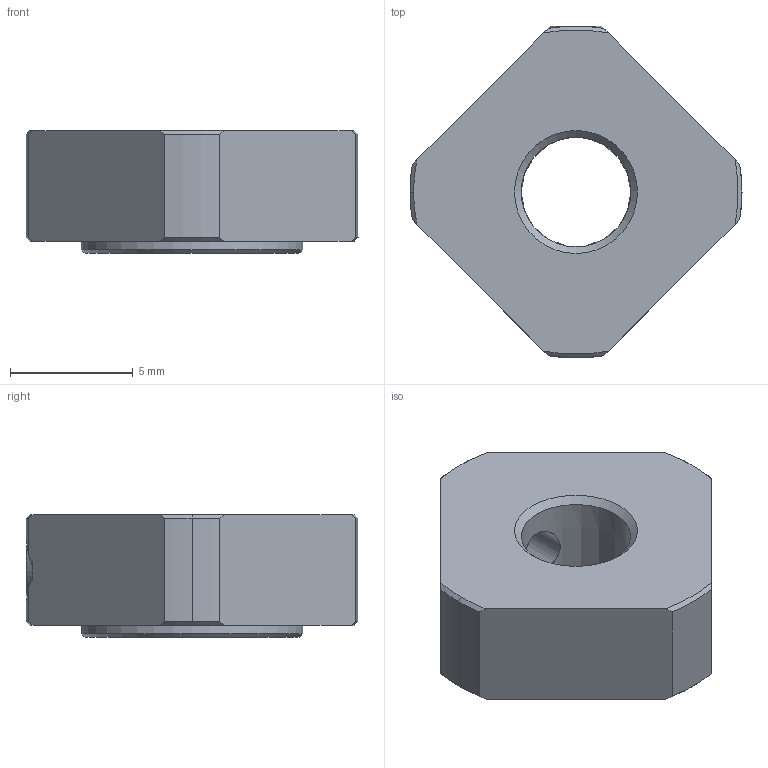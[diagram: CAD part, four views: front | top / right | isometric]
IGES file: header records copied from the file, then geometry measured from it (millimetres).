
Start section: Data from Parasolid IGES Translator 26.0.171, Copyright(c) 2006 Siemens PLM Software. All Rights Reserved.
Global section: file name: RN 5.igs; native system: By Siemens PLM Incorporated; preprocessor: XPlus GENERIC/IGES 26.0.171; author: Noname; organization: Noname; date: 20250611.074033; units: millimetre
Bounding box: 13.5 x 13.49 x 5 mm (x, y, z)
Surface area: 476 mm2 (no closed solid volume)
Topology: 0 solids, 0 shells, 40 faces, 214 edges, 213 vertices
Faces by surface type: revolution 24, extrusion 16
